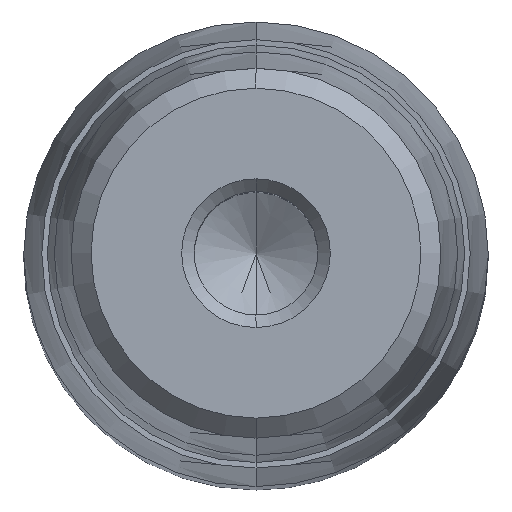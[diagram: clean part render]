
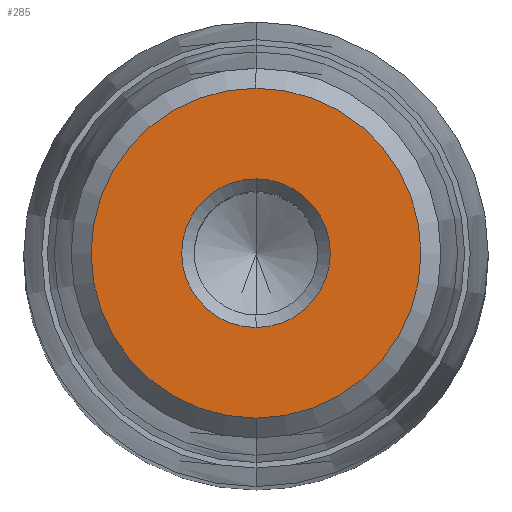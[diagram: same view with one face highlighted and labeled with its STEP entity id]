
A CAD part, top view. The second image highlights one B-rep face of the part: STEP entity #285.
In plain terms, the highlighted planar face has unit normal (0, 0, 1).
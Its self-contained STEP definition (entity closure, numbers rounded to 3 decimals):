
#164=CARTESIAN_POINT('Axis2P3D Location',(0.,0.,35.)) ;
#168=CARTESIAN_POINT('Vertex',(4.,0.,35.)) ;
#170=CARTESIAN_POINT('Vertex',(0.,-4.,35.)) ;
#173=CARTESIAN_POINT('Axis2P3D Location',(0.,0.,35.)) ;
#177=CARTESIAN_POINT('Vertex',(0.,4.,35.)) ;
#228=CARTESIAN_POINT('Axis2P3D Location',(0.,4.,35.)) ;
#233=CARTESIAN_POINT('Axis2P3D Location',(0.,0.,35.)) ;
#237=CARTESIAN_POINT('Vertex',(0.,8.875,35.)) ;
#239=CARTESIAN_POINT('Vertex',(8.875,0.,35.)) ;
#242=CARTESIAN_POINT('Axis2P3D Location',(0.,0.,35.)) ;
#246=CARTESIAN_POINT('Vertex',(-8.875,0.,35.)) ;
#249=CARTESIAN_POINT('Axis2P3D Location',(0.,0.,35.)) ;
#253=CARTESIAN_POINT('Vertex',(0.,-8.875,35.)) ;
#256=CARTESIAN_POINT('Axis2P3D Location',(0.,0.,35.)) ;
#267=CARTESIAN_POINT('Axis2P3D Location',(0.,0.,35.)) ;
#271=CARTESIAN_POINT('Vertex',(-4.,0.,35.)) ;
#274=CARTESIAN_POINT('Axis2P3D Location',(0.,0.,35.)) ;
#165=DIRECTION('Axis2P3D Direction',(0.,0.,1.)) ;
#174=DIRECTION('Axis2P3D Direction',(0.,0.,1.)) ;
#229=DIRECTION('Axis2P3D Direction',(-0.,0.,-1.)) ;
#230=DIRECTION('Axis2P3D XDirection',(0.,1.,0.)) ;
#234=DIRECTION('Axis2P3D Direction',(-0.,0.,-1.)) ;
#243=DIRECTION('Axis2P3D Direction',(-0.,0.,-1.)) ;
#250=DIRECTION('Axis2P3D Direction',(-0.,0.,-1.)) ;
#257=DIRECTION('Axis2P3D Direction',(-0.,0.,-1.)) ;
#268=DIRECTION('Axis2P3D Direction',(-0.,0.,-1.)) ;
#275=DIRECTION('Axis2P3D Direction',(-0.,0.,-1.)) ;
#166=AXIS2_PLACEMENT_3D('Circle Axis2P3D',#164,#165,$) ;
#175=AXIS2_PLACEMENT_3D('Circle Axis2P3D',#173,#174,$) ;
#231=AXIS2_PLACEMENT_3D('Plane Axis2P3D',#228,#229,#230) ;
#235=AXIS2_PLACEMENT_3D('Circle Axis2P3D',#233,#234,$) ;
#244=AXIS2_PLACEMENT_3D('Circle Axis2P3D',#242,#243,$) ;
#251=AXIS2_PLACEMENT_3D('Circle Axis2P3D',#249,#250,$) ;
#258=AXIS2_PLACEMENT_3D('Circle Axis2P3D',#256,#257,$) ;
#269=AXIS2_PLACEMENT_3D('Circle Axis2P3D',#267,#268,$) ;
#276=AXIS2_PLACEMENT_3D('Circle Axis2P3D',#274,#275,$) ;
#262=ORIENTED_EDGE('',*,*,#241,.F.) ;
#263=ORIENTED_EDGE('',*,*,#248,.F.) ;
#264=ORIENTED_EDGE('',*,*,#255,.F.) ;
#265=ORIENTED_EDGE('',*,*,#260,.F.) ;
#280=ORIENTED_EDGE('',*,*,#172,.T.) ;
#281=ORIENTED_EDGE('',*,*,#273,.T.) ;
#282=ORIENTED_EDGE('',*,*,#278,.T.) ;
#283=ORIENTED_EDGE('',*,*,#179,.T.) ;
#284=FACE_BOUND('',#279,.T.) ;
#285=ADVANCED_FACE('722-25x125x148',(#266,#284),#232,.F.) ;
#167=CIRCLE('generated circle',#166,4.) ;
#176=CIRCLE('generated circle',#175,4.) ;
#236=CIRCLE('generated circle',#235,8.875) ;
#245=CIRCLE('generated circle',#244,8.875) ;
#252=CIRCLE('generated circle',#251,8.875) ;
#259=CIRCLE('generated circle',#258,8.875) ;
#270=CIRCLE('generated circle',#269,4.) ;
#277=CIRCLE('generated circle',#276,4.) ;
#172=EDGE_CURVE('',#169,#171,#167,.F.) ;
#179=EDGE_CURVE('',#178,#169,#176,.F.) ;
#241=EDGE_CURVE('',#238,#240,#236,.T.) ;
#248=EDGE_CURVE('',#247,#238,#245,.T.) ;
#255=EDGE_CURVE('',#254,#247,#252,.T.) ;
#260=EDGE_CURVE('',#240,#254,#259,.T.) ;
#273=EDGE_CURVE('',#171,#272,#270,.T.) ;
#278=EDGE_CURVE('',#272,#178,#277,.T.) ;
#261=EDGE_LOOP('',(#262,#263,#264,#265)) ;
#279=EDGE_LOOP('',(#280,#281,#282,#283)) ;
#266=FACE_OUTER_BOUND('',#261,.T.) ;
#232=PLANE('Plane',#231) ;
#169=VERTEX_POINT('',#168) ;
#171=VERTEX_POINT('',#170) ;
#178=VERTEX_POINT('',#177) ;
#238=VERTEX_POINT('',#237) ;
#240=VERTEX_POINT('',#239) ;
#247=VERTEX_POINT('',#246) ;
#254=VERTEX_POINT('',#253) ;
#272=VERTEX_POINT('',#271) ;
